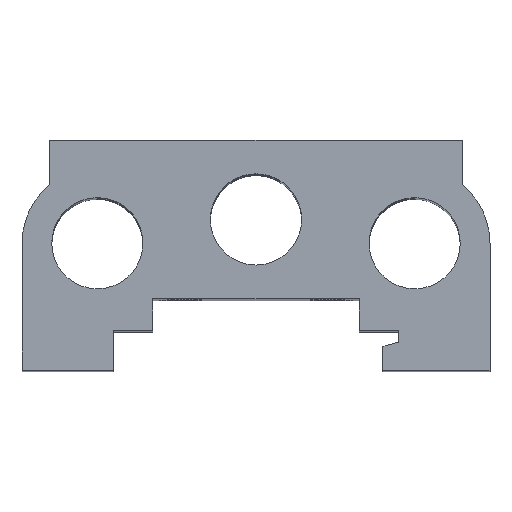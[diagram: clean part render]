
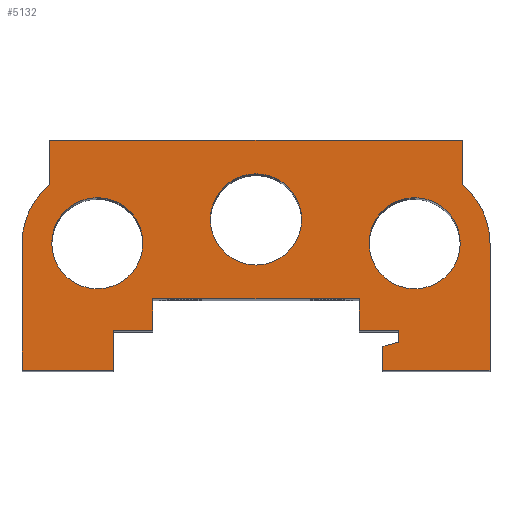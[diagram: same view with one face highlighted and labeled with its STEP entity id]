
A CAD part, top view. The second image highlights one B-rep face of the part: STEP entity #5132.
In plain terms, the highlighted planar face has unit normal (0, 0, 1).
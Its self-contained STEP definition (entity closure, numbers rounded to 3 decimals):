
#4246=CARTESIAN_POINT('',(25.75,16.0,128.0));
#4247=VERTEX_POINT('',#4246);
#4248=CARTESIAN_POINT('',(20.0,16.0,128.0));
#4249=DIRECTION('',(0.0,0.0,-1.0));
#4250=DIRECTION('',(-1.0,0.0,0.0));
#4251=AXIS2_PLACEMENT_3D('',#4248,#4249,#4250);
#4252=CIRCLE('',#4251,5.75);
#4253=EDGE_CURVE('',#4247,#4247,#4252,.T.);
#4290=CARTESIAN_POINT('',(5.75,19.0,128.0));
#4291=VERTEX_POINT('',#4290);
#4292=CARTESIAN_POINT('',(0.0,19.0,128.0));
#4293=DIRECTION('',(0.0,0.0,-1.0));
#4294=DIRECTION('',(-1.0,0.0,0.0));
#4295=AXIS2_PLACEMENT_3D('',#4292,#4293,#4294);
#4296=CIRCLE('',#4295,5.75);
#4297=EDGE_CURVE('',#4291,#4291,#4296,.T.);
#4330=CARTESIAN_POINT('',(-14.25,16.0,128.0));
#4331=VERTEX_POINT('',#4330);
#4332=CARTESIAN_POINT('',(-20.0,16.0,128.0));
#4333=DIRECTION('',(0.0,0.0,-1.0));
#4334=DIRECTION('',(-1.0,0.0,0.0));
#4335=AXIS2_PLACEMENT_3D('',#4332,#4333,#4334);
#4336=CIRCLE('',#4335,5.75);
#4337=EDGE_CURVE('',#4331,#4331,#4336,.T.);
#4374=CARTESIAN_POINT('',(-29.5,16.,128.0));
#4375=VERTEX_POINT('',#4374);
#4376=CARTESIAN_POINT('',(-26.,23.365,128.0));
#4377=VERTEX_POINT('',#4376);
#4378=CARTESIAN_POINT('',(-20.0,16.0,128.0));
#4379=DIRECTION('',(0.0,0.0,-1.0));
#4380=DIRECTION('',(-0.632,0.775,0.0));
#4381=AXIS2_PLACEMENT_3D('',#4378,#4379,#4380);
#4382=CIRCLE('',#4381,9.5);
#4383=EDGE_CURVE('',#4375,#4377,#4382,.T.);
#4416=CARTESIAN_POINT('',(-26.,29.,128.0));
#4417=VERTEX_POINT('',#4416);
#4418=CARTESIAN_POINT('',(-26.,23.365,128.0));
#4419=DIRECTION('',(0.0,1.0,0.0));
#4420=VECTOR('',#4419,5.635);
#4421=LINE('',#4418,#4420);
#4422=EDGE_CURVE('',#4377,#4417,#4421,.T.);
#4447=CARTESIAN_POINT('',(26.,29.,128.0));
#4448=VERTEX_POINT('',#4447);
#4449=CARTESIAN_POINT('',(-26.,29.,128.0));
#4450=DIRECTION('',(1.0,0.0,0.0));
#4451=VECTOR('',#4450,52.);
#4452=LINE('',#4449,#4451);
#4453=EDGE_CURVE('',#4417,#4448,#4452,.T.);
#4574=CARTESIAN_POINT('',(26.0,23.365,128.0));
#4575=VERTEX_POINT('',#4574);
#4576=CARTESIAN_POINT('',(26.,29.,128.0));
#4577=DIRECTION('',(0.0,-1.0,0.0));
#4578=VECTOR('',#4577,5.635);
#4579=LINE('',#4576,#4578);
#4580=EDGE_CURVE('',#4448,#4575,#4579,.T.);
#4605=CARTESIAN_POINT('',(29.5,16.0,128.0));
#4606=VERTEX_POINT('',#4605);
#4607=CARTESIAN_POINT('',(20.0,16.0,128.0));
#4608=DIRECTION('',(0.0,0.0,-1.0));
#4609=DIRECTION('',(1.0,0.0,0.0));
#4610=AXIS2_PLACEMENT_3D('',#4607,#4608,#4609);
#4611=CIRCLE('',#4610,9.5);
#4612=EDGE_CURVE('',#4575,#4606,#4611,.T.);
#4638=CARTESIAN_POINT('',(29.5,0.0,128.0));
#4639=VERTEX_POINT('',#4638);
#4640=CARTESIAN_POINT('',(29.5,16.0,128.0));
#4641=DIRECTION('',(0.0,-1.0,0.0));
#4642=VECTOR('',#4641,16.0);
#4643=LINE('',#4640,#4642);
#4644=EDGE_CURVE('',#4606,#4639,#4643,.T.);
#4669=CARTESIAN_POINT('',(16.,0.0,128.0));
#4670=VERTEX_POINT('',#4669);
#4671=CARTESIAN_POINT('',(29.5,0.0,128.0));
#4672=DIRECTION('',(-1.0,0.0,0.0));
#4673=VECTOR('',#4672,13.5);
#4674=LINE('',#4671,#4673);
#4675=EDGE_CURVE('',#4639,#4670,#4674,.T.);
#4700=CARTESIAN_POINT('',(16.,3.,128.0));
#4701=VERTEX_POINT('',#4700);
#4702=CARTESIAN_POINT('',(16.,0.0,128.0));
#4703=DIRECTION('',(0.0,1.0,0.0));
#4704=VECTOR('',#4703,3.);
#4705=LINE('',#4702,#4704);
#4706=EDGE_CURVE('',#4670,#4701,#4705,.T.);
#4731=CARTESIAN_POINT('',(18.0,3.536,128.0));
#4732=VERTEX_POINT('',#4731);
#4733=CARTESIAN_POINT('',(16.,3.,128.0));
#4734=DIRECTION('',(0.966,0.259,0.0));
#4735=VECTOR('',#4734,2.071);
#4736=LINE('',#4733,#4735);
#4737=EDGE_CURVE('',#4701,#4732,#4736,.T.);
#4762=CARTESIAN_POINT('',(18.,5.0,128.0));
#4763=VERTEX_POINT('',#4762);
#4764=CARTESIAN_POINT('',(18.0,3.536,128.0));
#4765=DIRECTION('',(0.0,1.0,0.0));
#4766=VECTOR('',#4765,1.464);
#4767=LINE('',#4764,#4766);
#4768=EDGE_CURVE('',#4732,#4763,#4767,.T.);
#4793=CARTESIAN_POINT('',(13.0,5.0,128.0));
#4794=VERTEX_POINT('',#4793);
#4795=CARTESIAN_POINT('',(18.,5.0,128.0));
#4796=DIRECTION('',(-1.0,0.0,0.0));
#4797=VECTOR('',#4796,5.);
#4798=LINE('',#4795,#4797);
#4799=EDGE_CURVE('',#4763,#4794,#4798,.T.);
#4824=CARTESIAN_POINT('',(13.0,9.0,128.0));
#4825=VERTEX_POINT('',#4824);
#4826=CARTESIAN_POINT('',(13.0,5.0,128.0));
#4827=DIRECTION('',(0.0,1.0,0.0));
#4828=VECTOR('',#4827,4.0);
#4829=LINE('',#4826,#4828);
#4830=EDGE_CURVE('',#4794,#4825,#4829,.T.);
#4855=CARTESIAN_POINT('',(-13.0,9.0,128.0));
#4856=VERTEX_POINT('',#4855);
#4857=CARTESIAN_POINT('',(13.0,9.0,128.0));
#4858=DIRECTION('',(-1.0,0.0,0.0));
#4859=VECTOR('',#4858,26.0);
#4860=LINE('',#4857,#4859);
#4861=EDGE_CURVE('',#4825,#4856,#4860,.T.);
#4922=CARTESIAN_POINT('',(-13.0,5.0,128.0));
#4923=VERTEX_POINT('',#4922);
#4924=CARTESIAN_POINT('',(-13.0,9.0,128.0));
#4925=DIRECTION('',(0.0,-1.0,0.0));
#4926=VECTOR('',#4925,4.0);
#4927=LINE('',#4924,#4926);
#4928=EDGE_CURVE('',#4856,#4923,#4927,.T.);
#4953=CARTESIAN_POINT('',(-18.0,5.0,128.0));
#4954=VERTEX_POINT('',#4953);
#4955=CARTESIAN_POINT('',(-13.0,5.0,128.0));
#4956=DIRECTION('',(-1.0,0.0,0.0));
#4957=VECTOR('',#4956,5.0);
#4958=LINE('',#4955,#4957);
#4959=EDGE_CURVE('',#4923,#4954,#4958,.T.);
#4984=CARTESIAN_POINT('',(-18.0,0.0,128.0));
#4985=VERTEX_POINT('',#4984);
#4986=CARTESIAN_POINT('',(-18.0,5.0,128.0));
#4987=DIRECTION('',(0.0,-1.0,0.0));
#4988=VECTOR('',#4987,5.0);
#4989=LINE('',#4986,#4988);
#4990=EDGE_CURVE('',#4954,#4985,#4989,.T.);
#5015=CARTESIAN_POINT('',(-29.5,0.0,128.0));
#5016=VERTEX_POINT('',#5015);
#5017=CARTESIAN_POINT('',(-18.0,0.0,128.0));
#5018=DIRECTION('',(-1.0,0.0,0.0));
#5019=VECTOR('',#5018,11.5);
#5020=LINE('',#5017,#5019);
#5021=EDGE_CURVE('',#4985,#5016,#5020,.T.);
#5046=CARTESIAN_POINT('',(-29.5,0.0,128.0));
#5047=DIRECTION('',(0.0,1.0,0.0));
#5048=VECTOR('',#5047,16.);
#5049=LINE('',#5046,#5048);
#5050=EDGE_CURVE('',#5016,#4375,#5049,.T.);
#5098=CARTESIAN_POINT('',(0.278,14.351,128.0));
#5099=DIRECTION('',(0.0,0.0,1.0));
#5100=DIRECTION('',(1.0,0.0,0.0));
#5101=AXIS2_PLACEMENT_3D('',#5098,#5099,#5100);
#5102=PLANE('',#5101);
#5103=ORIENTED_EDGE('',*,*,#4383,.F.);
#5104=ORIENTED_EDGE('',*,*,#5050,.F.);
#5105=ORIENTED_EDGE('',*,*,#5021,.F.);
#5106=ORIENTED_EDGE('',*,*,#4990,.F.);
#5107=ORIENTED_EDGE('',*,*,#4959,.F.);
#5108=ORIENTED_EDGE('',*,*,#4928,.F.);
#5109=ORIENTED_EDGE('',*,*,#4861,.F.);
#5110=ORIENTED_EDGE('',*,*,#4830,.F.);
#5111=ORIENTED_EDGE('',*,*,#4799,.F.);
#5112=ORIENTED_EDGE('',*,*,#4768,.F.);
#5113=ORIENTED_EDGE('',*,*,#4737,.F.);
#5114=ORIENTED_EDGE('',*,*,#4706,.F.);
#5115=ORIENTED_EDGE('',*,*,#4675,.F.);
#5116=ORIENTED_EDGE('',*,*,#4644,.F.);
#5117=ORIENTED_EDGE('',*,*,#4612,.F.);
#5118=ORIENTED_EDGE('',*,*,#4580,.F.);
#5119=ORIENTED_EDGE('',*,*,#4453,.F.);
#5120=ORIENTED_EDGE('',*,*,#4422,.F.);
#5121=EDGE_LOOP('',(#5103,#5104,#5105,#5106,#5107,#5108,#5109,#5110,#5111,#5112,#5113,#5114,#5115,#5116,#5117,#5118,#5119,#5120));
#5122=FACE_OUTER_BOUND('',#5121,.T.);
#5123=ORIENTED_EDGE('',*,*,#4253,.T.);
#5124=EDGE_LOOP('',(#5123));
#5125=FACE_BOUND('',#5124,.T.);
#5126=ORIENTED_EDGE('',*,*,#4297,.T.);
#5127=EDGE_LOOP('',(#5126));
#5128=FACE_BOUND('',#5127,.T.);
#5129=ORIENTED_EDGE('',*,*,#4337,.T.);
#5130=EDGE_LOOP('',(#5129));
#5131=FACE_BOUND('',#5130,.T.);
#5132=ADVANCED_FACE('',(#5122,#5125,#5128,#5131),#5102,.T.);
